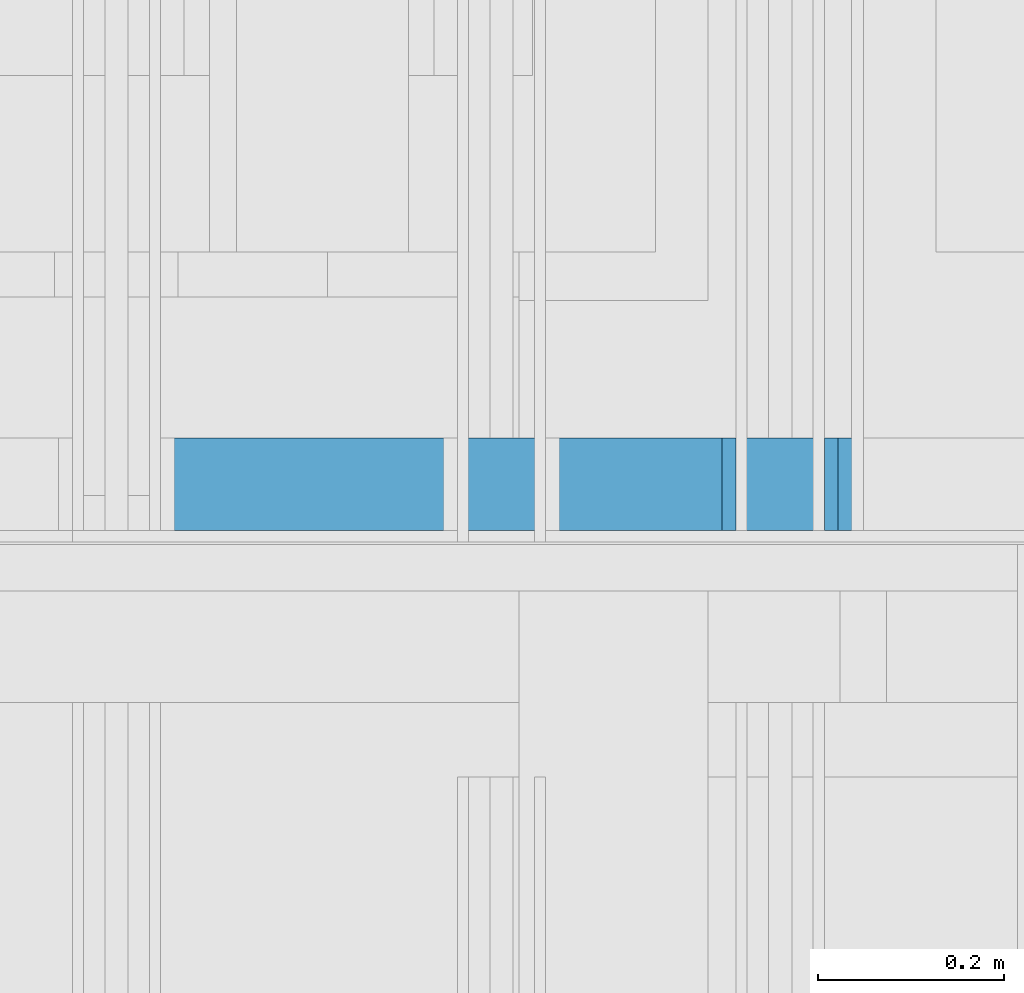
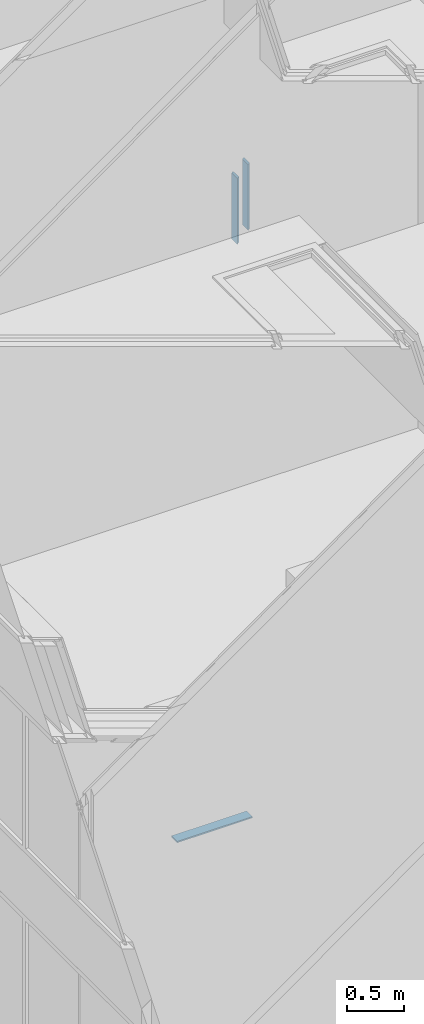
# One storey, part 199 of 583: 3 building element parts, 2 elements without a shape of their own.
"""IFC2X3 building model written with IfcOpenShell, lengths in metres."""

from ifc_helpers import new_model, entity, si_unit, converted_unit, derived_unit, money_unit, direction, frame, frame_2d, origin_with_axes, place, context, subcontext, project, spatial, polyline, rectangle, outline, extrude, material, type_object, element, aggregate, save


model = new_model("IFC2X3")

# Units and contexts
model_context = context("Model", 3, precision=1e-05, world=origin_with_axes(), true_north=direction((0.0, 1.0)))
body_context = subcontext(model_context, "Body", "Model", "MODEL_VIEW", scale=1.0)
ifc_project = project(units=[si_unit("LENGTHUNIT", "METRE"), si_unit("AREAUNIT", "SQUARE_METRE"), si_unit("VOLUMEUNIT", "CUBIC_METRE"), si_unit("ABSORBEDDOSEUNIT", "GRAY"), si_unit("AMOUNTOFSUBSTANCEUNIT", "MOLE"), si_unit("DOSEEQUIVALENTUNIT", "SIEVERT"), si_unit("ELECTRICCAPACITANCEUNIT", "FARAD"), si_unit("ELECTRICCHARGEUNIT", "COULOMB"), si_unit("ELECTRICCONDUCTANCEUNIT", "SIEMENS"), si_unit("ELECTRICCURRENTUNIT", "AMPERE"), si_unit("ELECTRICRESISTANCEUNIT", "OHM"), si_unit("ELECTRICVOLTAGEUNIT", "VOLT"), si_unit("ENERGYUNIT", "JOULE"), si_unit("FORCEUNIT", "NEWTON"), si_unit("FREQUENCYUNIT", "HERTZ"), si_unit("ILLUMINANCEUNIT", "LUX"), si_unit("INDUCTANCEUNIT", "HENRY"), si_unit("LUMINOUSFLUXUNIT", "LUMEN"), si_unit("LUMINOUSINTENSITYUNIT", "CANDELA"), si_unit("MAGNETICFLUXDENSITYUNIT", "TESLA"), si_unit("MAGNETICFLUXUNIT", "WEBER"), si_unit("MASSUNIT", "GRAM"), converted_unit("PLANEANGLEUNIT", "degree", entity("IfcReal", 0.0174532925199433), si_unit("PLANEANGLEUNIT", "RADIAN"), dimensions=[0, 0, 0, 0, 0, 0, 0]), si_unit("POWERUNIT", "WATT"), si_unit("PRESSUREUNIT", "PASCAL"), si_unit("RADIOACTIVITYUNIT", "BECQUEREL"), si_unit("SOLIDANGLEUNIT", "STERADIAN"), si_unit("THERMODYNAMICTEMPERATUREUNIT", "KELVIN"), si_unit("TIMEUNIT", "SECOND"), derived_unit("ACCELERATIONUNIT", [(si_unit("LENGTHUNIT", "METRE"), 1), (si_unit("TIMEUNIT", "SECOND"), -2)]), derived_unit("ANGULARVELOCITYUNIT", [(converted_unit("PLANEANGLEUNIT", "degree", entity("IfcReal", 0.0174532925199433), si_unit("PLANEANGLEUNIT", "RADIAN"), dimensions=[0, 0, 0, 0, 0, 0, 0]), 1), (si_unit("TIMEUNIT", "SECOND"), -1)]), derived_unit("CURVATUREUNIT", [(converted_unit("PLANEANGLEUNIT", "degree", entity("IfcReal", 0.0174532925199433), si_unit("PLANEANGLEUNIT", "RADIAN"), dimensions=[0, 0, 0, 0, 0, 0, 0]), 1), (si_unit("LENGTHUNIT", "METRE"), -1)]), derived_unit("DYNAMICVISCOSITYUNIT", [(si_unit("PRESSUREUNIT", "PASCAL"), 1), (si_unit("TIMEUNIT", "SECOND"), 1)]), derived_unit("HEATFLUXDENSITYUNIT", [(si_unit("POWERUNIT", "WATT"), 1), (si_unit("LENGTHUNIT", "METRE"), -2)]), derived_unit("HEATINGVALUEUNIT", [(si_unit("ENERGYUNIT", "JOULE"), 1), (si_unit("MASSUNIT", "GRAM"), -1)]), derived_unit("INTEGERCOUNTRATEUNIT", [(si_unit("TIMEUNIT", "SECOND"), -1)]), derived_unit("IONCONCENTRATIONUNIT", [(si_unit("MASSUNIT", "GRAM"), 1), (si_unit("VOLUMEUNIT", "CUBIC_METRE"), -1)]), derived_unit("ISOTHERMALMOISTURECAPACITYUNIT", [(si_unit("VOLUMEUNIT", "CUBIC_METRE"), 1), (si_unit("MASSUNIT", "GRAM"), -1)]), derived_unit("KINEMATICVISCOSITYUNIT", [(si_unit("AREAUNIT", "SQUARE_METRE"), 1), (si_unit("TIMEUNIT", "SECOND"), -1)]), derived_unit("LINEARFORCEUNIT", [(si_unit("FORCEUNIT", "NEWTON"), 1), (si_unit("LENGTHUNIT", "METRE"), -1)]), derived_unit("LINEARMOMENTUNIT", [(si_unit("FORCEUNIT", "NEWTON"), 1), (si_unit("LENGTHUNIT", "METRE"), -1)]), derived_unit("LINEARSTIFFNESSUNIT", [(si_unit("FORCEUNIT", "NEWTON"), 1), (si_unit("LENGTHUNIT", "METRE"), -1)]), derived_unit("LINEARVELOCITYUNIT", [(si_unit("LENGTHUNIT", "METRE"), 1), (si_unit("TIMEUNIT", "SECOND"), -1)]), derived_unit("LUMINOUSINTENSITYDISTRIBUTIONUNIT", [(si_unit("LUMINOUSINTENSITYUNIT", "CANDELA"), 1), (si_unit("LUMINOUSFLUXUNIT", "LUMEN"), -1)]), derived_unit("MASSDENSITYUNIT", [(si_unit("MASSUNIT", "GRAM"), 1), (si_unit("VOLUMEUNIT", "CUBIC_METRE"), -1)]), derived_unit("MASSFLOWRATEUNIT", [(si_unit("MASSUNIT", "GRAM"), 1), (si_unit("TIMEUNIT", "SECOND"), -1)]), derived_unit("MASSPERLENGTHUNIT", [(si_unit("MASSUNIT", "GRAM"), 1), (si_unit("LENGTHUNIT", "METRE"), -1)]), derived_unit("MODULUSOFELASTICITYUNIT", [(si_unit("FORCEUNIT", "NEWTON"), 1), (si_unit("AREAUNIT", "SQUARE_METRE"), -1)]), derived_unit("MODULUSOFLINEARSUBGRADEREACTIONUNIT", [(si_unit("FORCEUNIT", "NEWTON"), 1), (si_unit("LENGTHUNIT", "METRE"), -2)]), derived_unit("MODULUSOFROTATIONALSUBGRADEREACTIONUNIT", [(si_unit("FORCEUNIT", "NEWTON"), 1), (si_unit("LENGTHUNIT", "METRE"), 1)]), derived_unit("MODULUSOFSUBGRADEREACTIONUNIT", [(si_unit("FORCEUNIT", "NEWTON"), 1), (si_unit("VOLUMEUNIT", "CUBIC_METRE"), -1)]), derived_unit("MOISTUREDIFFUSIVITYUNIT", [(si_unit("VOLUMEUNIT", "CUBIC_METRE"), 1), (si_unit("TIMEUNIT", "SECOND"), -1)]), derived_unit("MOLECULARWEIGHTUNIT", [(si_unit("MASSUNIT", "GRAM"), 1), (si_unit("AMOUNTOFSUBSTANCEUNIT", "MOLE"), -1)]), derived_unit("PLANARFORCEUNIT", [(si_unit("FORCEUNIT", "NEWTON"), 1), (si_unit("LENGTHUNIT", "METRE"), -2)]), derived_unit("ROTATIONALFREQUENCYUNIT", [(si_unit("TIMEUNIT", "SECOND"), -1)]), derived_unit("ROTATIONALMASSUNIT", [(si_unit("MASSUNIT", "GRAM"), 1), (si_unit("LENGTHUNIT", "METRE"), 2)]), derived_unit("ROTATIONALSTIFFNESSUNIT", [(si_unit("FORCEUNIT", "NEWTON"), 1), (si_unit("LENGTHUNIT", "METRE"), 1), (converted_unit("PLANEANGLEUNIT", "degree", entity("IfcReal", 0.0174532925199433), si_unit("PLANEANGLEUNIT", "RADIAN"), dimensions=[0, 0, 0, 0, 0, 0, 0]), -1)]), derived_unit("SECTIONAREAINTEGRALUNIT", [(si_unit("LENGTHUNIT", "METRE"), 5)]), derived_unit("SECTIONMODULUSUNIT", [(si_unit("LENGTHUNIT", "METRE"), 3)]), derived_unit("SHEARMODULUSUNIT", [(si_unit("FORCEUNIT", "NEWTON"), 1), (si_unit("AREAUNIT", "SQUARE_METRE"), -1)]), derived_unit("SOUNDPOWERUNIT", [(si_unit("ENERGYUNIT", "JOULE"), 1), (si_unit("TIMEUNIT", "SECOND"), -1)]), derived_unit("SPECIFICHEATCAPACITYUNIT", [(si_unit("FORCEUNIT", "NEWTON"), 1), (si_unit("MASSUNIT", "GRAM"), -1), (si_unit("THERMODYNAMICTEMPERATUREUNIT", "KELVIN"), -1)]), derived_unit("TEMPERATUREGRADIENTUNIT", [(si_unit("THERMODYNAMICTEMPERATUREUNIT", "KELVIN"), 1), (si_unit("LENGTHUNIT", "METRE"), -1)]), derived_unit("THERMALADMITTANCEUNIT", [(si_unit("POWERUNIT", "WATT"), 1), (si_unit("AREAUNIT", "SQUARE_METRE"), -1), (si_unit("THERMODYNAMICTEMPERATUREUNIT", "KELVIN"), -1)]), derived_unit("THERMALCONDUCTANCEUNIT", [(si_unit("POWERUNIT", "WATT"), 1), (si_unit("LENGTHUNIT", "METRE"), -1), (si_unit("THERMODYNAMICTEMPERATUREUNIT", "KELVIN"), -1)]), derived_unit("THERMALEXPANSIONCOEFFICIENTUNIT", [(si_unit("THERMODYNAMICTEMPERATUREUNIT", "KELVIN"), -1)]), derived_unit("THERMALRESISTANCEUNIT", [(si_unit("AREAUNIT", "SQUARE_METRE"), 1), (si_unit("POWERUNIT", "WATT"), -1)]), derived_unit("THERMALTRANSMITTANCEUNIT", [(si_unit("POWERUNIT", "WATT"), 1), (si_unit("AREAUNIT", "SQUARE_METRE"), -1), (si_unit("THERMODYNAMICTEMPERATUREUNIT", "KELVIN"), -1)]), derived_unit("TORQUEUNIT", [(si_unit("FORCEUNIT", "NEWTON"), 1), (si_unit("LENGTHUNIT", "METRE"), 1)]), derived_unit("VAPORPERMEABILITYUNIT", [(si_unit("MASSUNIT", "GRAM"), 1), (si_unit("TIMEUNIT", "SECOND"), -1)]), derived_unit("VOLUMETRICFLOWRATEUNIT", [(si_unit("VOLUMEUNIT", "CUBIC_METRE"), 1), (si_unit("TIMEUNIT", "SECOND"), -1)]), derived_unit("WARPINGCONSTANTUNIT", [(si_unit("LENGTHUNIT", "METRE"), 6)]), derived_unit("WARPINGMOMENTUNIT", [(si_unit("FORCEUNIT", "NEWTON"), 1), (si_unit("LENGTHUNIT", "METRE"), 2)]), money_unit("GBP")], contexts=[model_context])

# Site, building, storey
site_placement = place(None, origin_with_axes())
site = spatial("IfcSite", under=ifc_project, at=site_placement, Name="Site", CompositionType="ELEMENT")
building_placement = place(site_placement, origin_with_axes())
building = spatial("IfcBuilding", under=site, at=building_placement, Name="Building01", CompositionType="ELEMENT")
storey_placement = place(building_placement, frame((0.0, 0.0, 20.78), z_axis=(0.0, 0.0, 1.0), x_axis=(1.0, 0.0, 0.0)))
storey = spatial("IfcBuildingStorey", under=building, at=storey_placement, Name="RL", CompositionType="ELEMENT", Elevation=20.78)

# Wall, building element part
wall_type_1 = type_object("IfcWallType", Name="SHE_A-Walls_Type06d_ExternalWallInsulation_48mm", PredefinedType="NOTDEFINED")
wall_1_placement = place(storey_placement, frame((3.77418, 8.64, -20.51), z_axis=(0.0, 1.0, 0.0), x_axis=(-1.0, 0.0, 0.0)))
wall_1 = element("IfcWall", 1, at=wall_1_placement, inside=storey, type_object=wall_type_1, Name="6D", ObjectType="SHE_A-Walls_Type06d_ExternalWallInsulation_48mm")
ifc_material = material(Name="A_BSUK_Walls_Timber")
building_element_part_1_placement = place(wall_1_placement, origin_with_axes())
building_element_part_1 = element("IfcBuildingElementPart", 2, at=building_element_part_1_placement, material=ifc_material, Name="2", context=body_context, shape_type="SweptSolid", body=[
    extrude(rectangle(XDim=0.756894, YDim=0.015, at=frame_2d((0.330447, 0.0555), x_axis=(-1.0, 0.0))), frame((0.0, 0.0, 0.015), z_axis=(0.0, 0.0, 1.0), x_axis=(1.0, 0.0, 0.0)), (0.0, 0.0, 1.0), 0.1),
])
aggregate(wall_1, [building_element_part_1])

# Wall, building element parts
wall_type_2 = type_object("IfcWallType", Name="SHE_A-Walls_Type05a_Partition_95mm_tall", PredefinedType="NOTDEFINED")
wall_2_placement = place(storey_placement, frame((3.72, 8.64, -13.545), z_axis=(0.0, 1.0, 0.0), x_axis=(0.0, 0.0, -1.0)))
wall_2 = element("IfcWall", 3, at=wall_2_placement, inside=storey, type_object=wall_type_2, Name="5A", ObjectType="SHE_A-Walls_Type05a_Partition_95mm_tall")
placement = place(wall_2_placement, origin_with_axes())
building_element_part_2 = element("IfcBuildingElementPart", 4, at=placement, material=ifc_material, Name="2", context=body_context, shape_type="SweptSolid", body=[
    extrude(outline(polyline([(0.75, 0.05), (0.05, 0.05), (0.035, 0.035), (0.735, 0.035), (0.75, 0.05)])), frame((0.0, 0.0, 0.015), z_axis=(0.0, 0.0, 1.0), x_axis=(1.0, 0.0, 0.0)), (0.0, 0.0, 1.0), 0.1),
])
building_element_part_3 = element("IfcBuildingElementPart", 5, at=placement, material=ifc_material, Name="3", context=body_context, shape_type="SweptSolid", body=[
    extrude(outline(polyline([(0.64, -0.06), (-0.06, -0.06), (-0.075, -0.075), (0.625, -0.075), (0.64, -0.06)])), frame((0.0, 0.0, 0.015), z_axis=(0.0, 0.0, 1.0), x_axis=(1.0, 0.0, 0.0)), (0.0, 0.0, 1.0), 0.1),
])
aggregate(wall_2, [building_element_part_2, building_element_part_3])

save(model, "model.ifc")
